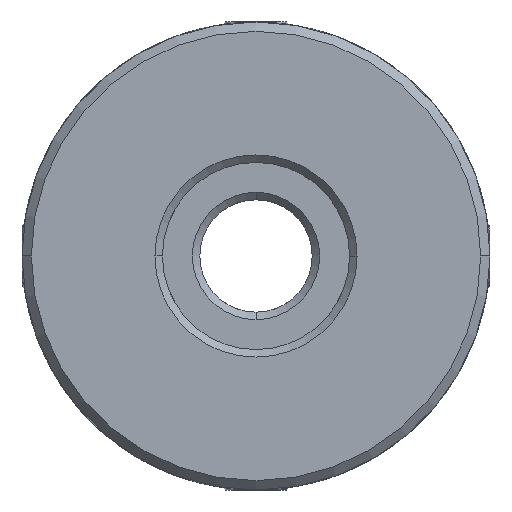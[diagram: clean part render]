
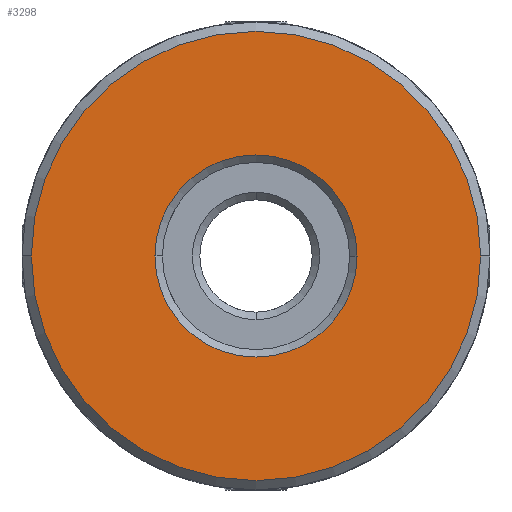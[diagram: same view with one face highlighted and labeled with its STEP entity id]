
A CAD part, front view. The second image highlights one B-rep face of the part: STEP entity #3298.
In plain terms, the highlighted planar face has unit normal (0, -1, 0).
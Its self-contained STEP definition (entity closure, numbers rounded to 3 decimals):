
#24 = CARTESIAN_POINT ( 'NONE',  ( 0., -28., 0. ) ) ;
#25 = FACE_BOUND ( 'NONE', #319, .T. ) ;
#121 = CARTESIAN_POINT ( 'NONE',  ( 12., -28., 0. ) ) ;
#198 = ORIENTED_EDGE ( 'NONE', *, *, #7510, .T. ) ;
#319 = EDGE_LOOP ( 'NONE', ( #9432, #3329 ) ) ;
#372 = DIRECTION ( 'NONE',  ( 0., 1., 0. ) ) ;
#529 = DIRECTION ( 'NONE',  ( 0., 1., 0. ) ) ;
#537 = AXIS2_PLACEMENT_3D ( 'NONE', #3491, #529, #8840 ) ;
#776 = DIRECTION ( 'NONE',  ( -1., 0., 0. ) ) ;
#883 = AXIS2_PLACEMENT_3D ( 'NONE', #6661, #8959, #5823 ) ;
#888 = EDGE_CURVE ( 'NONE', #7060, #4322, #3352, .T. ) ;
#2036 = CARTESIAN_POINT ( 'NONE',  ( -5.4, -28., 0. ) ) ;
#2561 = AXIS2_PLACEMENT_3D ( 'NONE', #24, #4599, #7640 ) ;
#2838 = CIRCLE ( 'NONE', #537, 5.4 ) ;
#3298 = ADVANCED_FACE ( 'NONE', ( #5753, #25 ), #8861, .F. ) ;
#3329 = ORIENTED_EDGE ( 'NONE', *, *, #6775, .T. ) ;
#3352 = CIRCLE ( 'NONE', #7567, 5.4 ) ;
#3491 = CARTESIAN_POINT ( 'NONE',  ( 0., -28., 0. ) ) ;
#3502 = DIRECTION ( 'NONE',  ( -1., 0., 0. ) ) ;
#3520 = EDGE_CURVE ( 'NONE', #7691, #3792, #8146, .T. ) ;
#3792 = VERTEX_POINT ( 'NONE', #121 ) ;
#4322 = VERTEX_POINT ( 'NONE', #2036 ) ;
#4599 = DIRECTION ( 'NONE',  ( 0., -1., 0. ) ) ;
#4631 = CARTESIAN_POINT ( 'NONE',  ( 0., -28., 0. ) ) ;
#4634 = CIRCLE ( 'NONE', #2561, 12. ) ;
#4854 = EDGE_LOOP ( 'NONE', ( #9899, #198 ) ) ;
#5375 = DIRECTION ( 'NONE',  ( 0., 1., 0. ) ) ;
#5753 = FACE_OUTER_BOUND ( 'NONE', #4854, .T. ) ;
#5823 = DIRECTION ( 'NONE',  ( -1., 0., 0. ) ) ;
#6176 = CARTESIAN_POINT ( 'NONE',  ( 5.4, -28., 0. ) ) ;
#6661 = CARTESIAN_POINT ( 'NONE',  ( 0., -28., 0. ) ) ;
#6775 = EDGE_CURVE ( 'NONE', #4322, #7060, #2838, .T. ) ;
#7060 = VERTEX_POINT ( 'NONE', #6176 ) ;
#7510 = EDGE_CURVE ( 'NONE', #3792, #7691, #4634, .T. ) ;
#7567 = AXIS2_PLACEMENT_3D ( 'NONE', #4631, #5375, #776 ) ;
#7640 = DIRECTION ( 'NONE',  ( -1., 0., 0. ) ) ;
#7691 = VERTEX_POINT ( 'NONE', #7891 ) ;
#7891 = CARTESIAN_POINT ( 'NONE',  ( -12., -28., 0. ) ) ;
#8146 = CIRCLE ( 'NONE', #883, 12. ) ;
#8763 = AXIS2_PLACEMENT_3D ( 'NONE', #9610, #372, #3502 ) ;
#8840 = DIRECTION ( 'NONE',  ( -1., 0., 0. ) ) ;
#8861 = PLANE ( 'NONE',  #8763 ) ;
#8959 = DIRECTION ( 'NONE',  ( 0., -1., 0. ) ) ;
#9432 = ORIENTED_EDGE ( 'NONE', *, *, #888, .T. ) ;
#9610 = CARTESIAN_POINT ( 'NONE',  ( -19.597, -28., -50. ) ) ;
#9899 = ORIENTED_EDGE ( 'NONE', *, *, #3520, .T. ) ;
